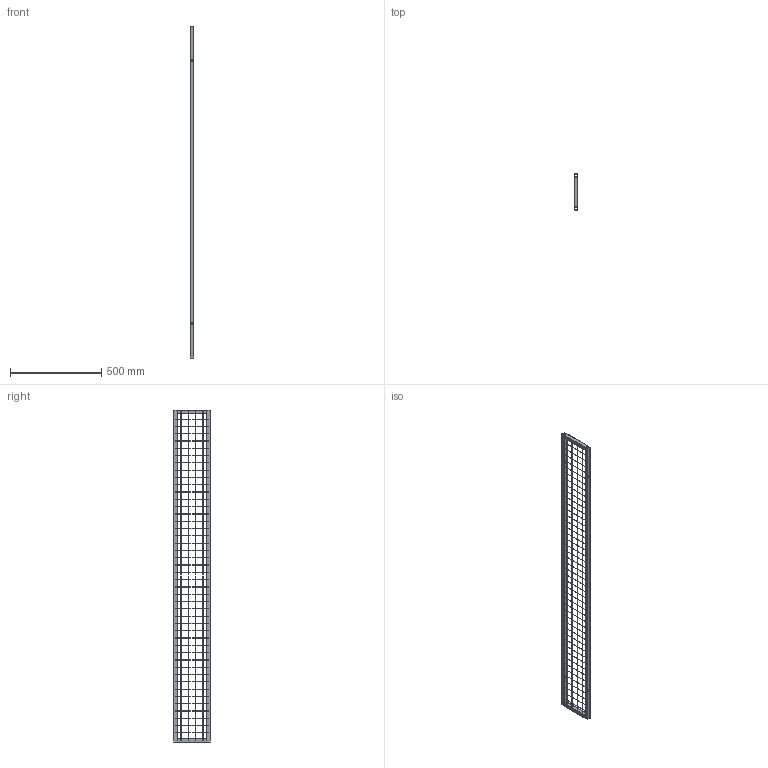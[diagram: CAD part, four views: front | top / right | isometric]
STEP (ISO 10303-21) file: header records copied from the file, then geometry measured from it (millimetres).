
FILE_DESCRIPTION (( 'STEP AP203' ), '1' );
FILE_NAME ('200.STEP', '2023-03-14T02:13:45', ( '504148165@qq.com' ), ( '' ), 'SwSTEP 2.0', 'SolidWorks 2021', '' );
FILE_SCHEMA (( 'CONFIG_CONTROL_DESIGN' ));
Length unit declared in the file: millimetre
Products named in the file (4): 200; 1820; 200厙え
Assembly tree (5 placements, depth 2):
  200
    1820  x2
    200  x2
    200厙え
Bounding box: 21 x 200 x 1820 mm (x, y, z)
Volume: 584103.4 mm3; surface area: 631214 mm2
Topology: 52 solids, 52 shells, 344 faces, 720 edges, 480 vertices
Faces by surface type: plane 328, cylinder 16
Entity records: 8556 total; most frequent: CARTESIAN_POINT 1404, DIRECTION 1312, ORIENTED_EDGE 1296, EDGE_CURVE 648, LINE 632, VECTOR 632, VERTEX_POINT 432, AXIS2_PLACEMENT_3D 340
